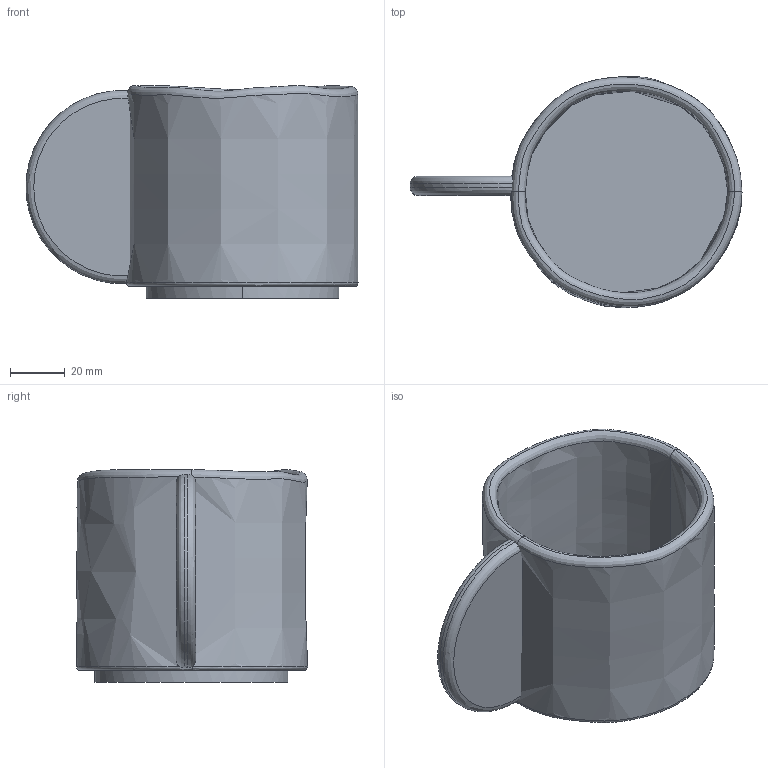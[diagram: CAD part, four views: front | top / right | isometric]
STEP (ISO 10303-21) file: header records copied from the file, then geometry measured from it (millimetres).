
FILE_DESCRIPTION(/* description */ (''),/* implementation_level */ '2;1');
FILE_NAME(/* name */ 'Native Coffee Cup',/* time_stamp */ '2024-05-22T16:29:31+02:00',/* author */ (''),/* organization */ (''),/* preprocessor_version */ 'ST-DEVELOPER v16.5',/* originating_system */ 'Rhino 7.37',/* authorisation */ '');
FILE_SCHEMA (('CONFIG_CONTROL_DESIGN'));
Length unit declared in the file: millimetre
Products named in the file (1): Document
Bounding box: 121.19 x 84.41 x 77.63 mm (x, y, z)
Volume: 134817.9 mm3; surface area: 62162.6 mm2
Topology: 4 solids, 4 shells, 27 faces, 55 edges, 35 vertices
Faces by surface type: bspline 27
Entity records: 10729 total; most frequent: CARTESIAN_POINT 9937, B_SPLINE_CURVE_WITH_KNOTS 122, ORIENTED_EDGE 110, PCURVE 110, DEFINITIONAL_REPRESENTATION 110, SURFACE_CURVE 55, EDGE_CURVE 55, VERTEX_POINT 35
